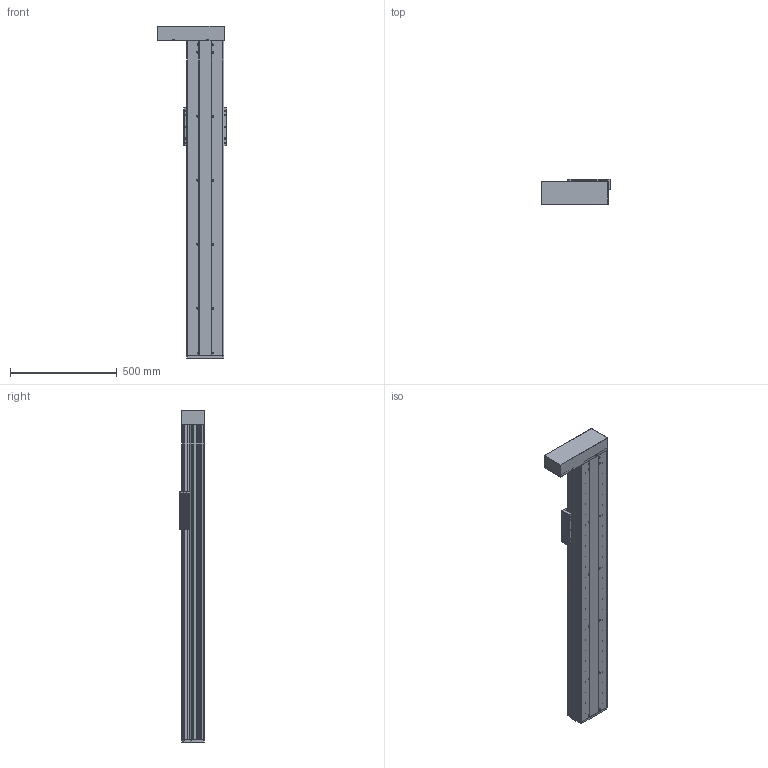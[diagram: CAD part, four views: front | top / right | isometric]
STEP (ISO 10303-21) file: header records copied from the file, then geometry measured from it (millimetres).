
FILE_DESCRIPTION (( 'STEP AP214' ), '1' );
FILE_NAME ('CF175B-C-1200-FWL.STEP', '2020-01-02T01:09:09', ( '微软用户' ), ( '微软中国' ), 'SwSTEP 2.0', 'SolidWorks 2016', '' );
FILE_SCHEMA (( 'AUTOMOTIVE_DESIGN' ));
Length unit declared in the file: millimetre
Products named in the file (12): CF175-2蹟譫釱; 175-2盓傅釱; 175-2耜啣; CF-EGH20CA賑輸; CF175B-C-1200-FWL; 肮祭謫欶; 175B殏俔萇儂啣; 175-2同步带从动端固定座; CF175-2賑雄啣; EGR20絳寢-1200; 175B臏倰第-1200; CF175B-1200
Assembly tree (15 placements, depth 2):
  CF175B-C-1200-FWL
    CF-EGH20CA賑輸  x4
    175-2耜啣
    175-2盓傅釱
    CF175-2蹟譫釱
    CF175B-1200
    175B臏倰第-1200
    EGR20絳寢-1200  x2
    CF175-2賑雄啣
    175-2同步带从动端固定座
    175B殏俔萇儂啣
    肮祭謫欶
Bounding box: 324.5 x 118.3 x 1555 mm (x, y, z)
Volume: 10424653 mm3; surface area: 3137537.8 mm2
Topology: 21 solids, 21 shells, 1522 faces, 3917 edges, 2597 vertices
Faces by surface type: cylinder 809, plane 703, cone 8, bspline 2
Entity records: 37998 total; most frequent: DIRECTION 6519, CARTESIAN_POINT 6261, ORIENTED_EDGE 5880, EDGE_CURVE 2940, AXIS2_PLACEMENT_3D 2451, VERTEX_POINT 1953, VECTOR 1617, LINE 1617
